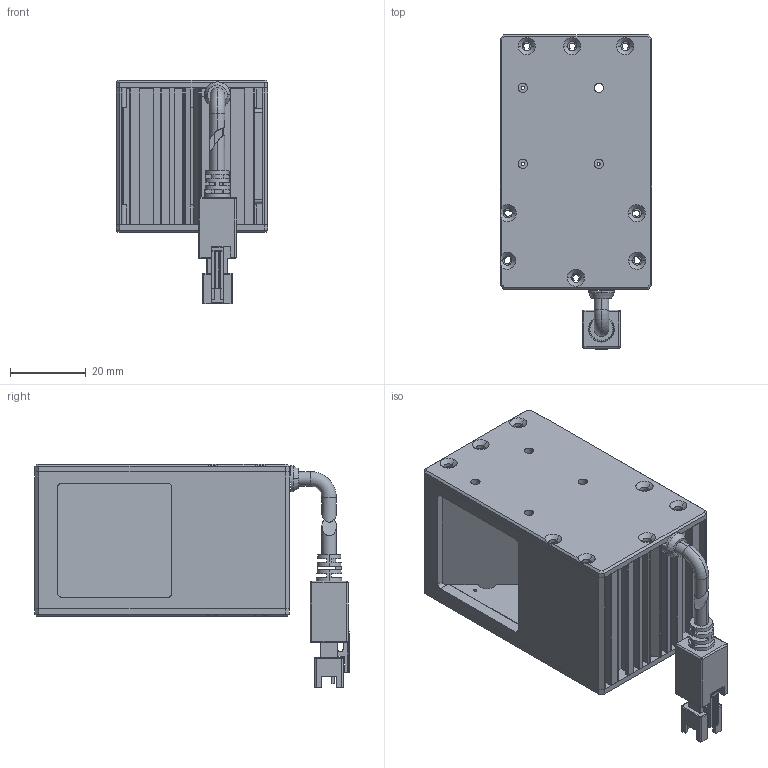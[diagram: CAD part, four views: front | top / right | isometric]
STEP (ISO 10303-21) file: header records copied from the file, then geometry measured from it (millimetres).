
FILE_DESCRIPTION (( 'STEP AP203' ), '1' );
FILE_NAME ('PPX-CO40S-W.STEP', '2022-09-13T05:34:41', ( 'Windows 蚚誧' ), ( 'Microsoft' ), 'SwSTEP 2.0', 'SolidWorks 2016', '' );
FILE_SCHEMA (( 'CONFIG_CONTROL_DESIGN' ));
Length unit declared in the file: millimetre
Products named in the file (2): PPX-CO40S-W
Bounding box: 40 x 82.75 x 58.8 mm (x, y, z)
Surface area: 29553.4 mm2 (no closed solid volume)
Topology: 0 solids, 11 shells, 460 faces, 1628 edges, 1140 vertices
Faces by surface type: plane 217, cylinder 184, cone 40, torus 14, sphere 3, bspline 2
Entity records: 17849 total; most frequent: CARTESIAN_POINT 3552, DIRECTION 3031, ORIENTED_EDGE 2708, EDGE_CURVE 1625, VERTEX_POINT 1140, VECTOR 1041, LINE 1041, AXIS2_PLACEMENT_3D 995
